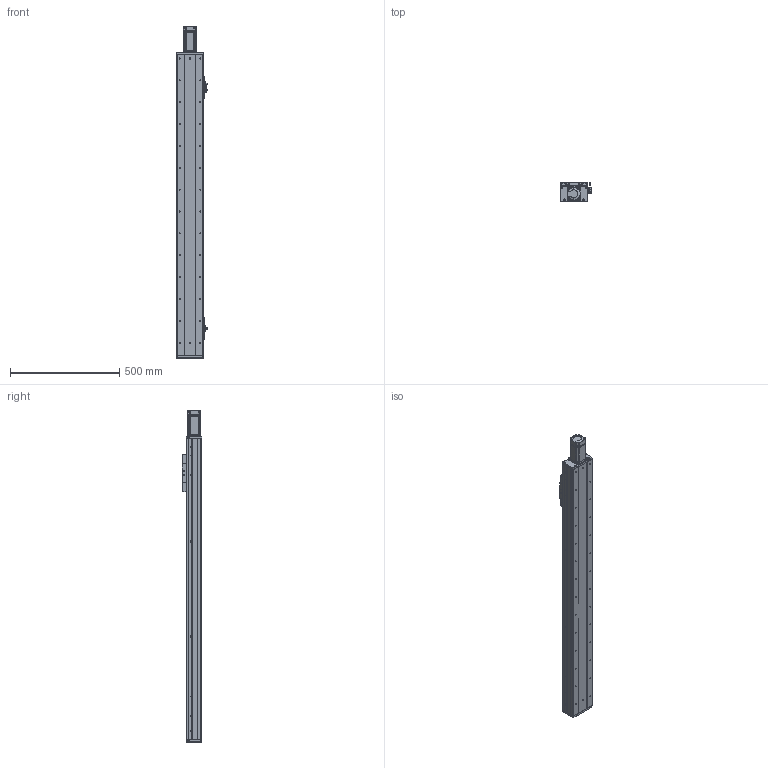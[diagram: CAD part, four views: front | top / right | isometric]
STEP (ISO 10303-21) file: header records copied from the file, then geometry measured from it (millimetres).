
FILE_DESCRIPTION (( 'STEP AP203' ), '1' );
FILE_NAME ('RY120F-L2010-1000-MK.SLDASM_1100.step', '2021-03-02T06:06:04', ( '盈信电脑' ), ( '东莞市道滘镇水果街19号' ), 'SwSTEP 2.0', 'SolidWorks 2012', '' );
FILE_SCHEMA (( 'CONFIG_CONTROL_DESIGN' ));
Products named in the file (23): 粣杶; RY120F-L2010-1000-MK.SLDASM_1100; RY120F-蚥薯蝶幗謫郪磁; RY120F-钢带滚轮轴(优力胶); 蚥薯蝶幗謫; MF95ZZ; 滅袉蝶18-17; FY120F詩湍揤踡輸; 672嫖萇羲壽假蚾釱; RY80俋离覜茼え; RY120F綴裔啣(臏璃ㄘ; 覜茼ん672; 滅袉蝶18-24; RY120F不锈钢防尘盖(优力胶）; 侂狟400W侜督萇儂; RY120F-铝滑块上座（优力胶）; 15; RY120F眻蟀ヶ裔啣; RY120F-臏賑輸 20蹟譫; 絳寢賑輸EGH15; RY120F滅鳥詩湍-1000-MK_1100; RY120F-1000-倰第菁釱_1100; RY120F-1000-倰第裔啣_1100
Assembly tree (34 placements, depth 3):
  RY120F-L2010-1000-MK.SLDASM_1100
    RY120F-1000-倰第菁釱_1100
    RY120F-1000-倰第裔啣_1100  x2
    RY120F滅鳥詩湍-1000-MK_1100
    RY120F-臏賑輸 20蹟譫
    絳寢賑輸EGH15  x2
    RY120F-铝滑块上座（优力胶）
    侂狟400W侜督萇儂
      15
    RY120F眻蟀ヶ裔啣
    RY120F不锈钢防尘盖(优力胶）
    滅袉蝶18-24
    RY120F綴裔啣(臏璃ㄘ
    覜茼ん672  x3
    672嫖萇羲壽假蚾釱  x2
    RY80俋离覜茼え
    FY120F詩湍揤踡輸  x2
    滅袉蝶18-17  x2
    RY120F-蚥薯蝶幗謫郪磁
      RY120F-钢带滚轮轴(优力胶)
      蚥薯蝶幗謫  x2
      MF95ZZ  x4
      粣杶  x2
Bounding box: 140.35 x 89 x 1518.5 mm (x, y, z)
Volume: 4484394.1 mm3; surface area: 1630018.1 mm2
Topology: 32 solids, 32 shells, 2293 faces, 6093 edges, 3901 vertices
Faces by surface type: cylinder 1068, plane 988, cone 219, bspline 18
Entity records: 61216 total; most frequent: CARTESIAN_POINT 11028, DIRECTION 10311, ORIENTED_EDGE 9570, EDGE_CURVE 4785, AXIS2_PLACEMENT_3D 3752, VERTEX_POINT 3133, VECTOR 2807, LINE 2807
